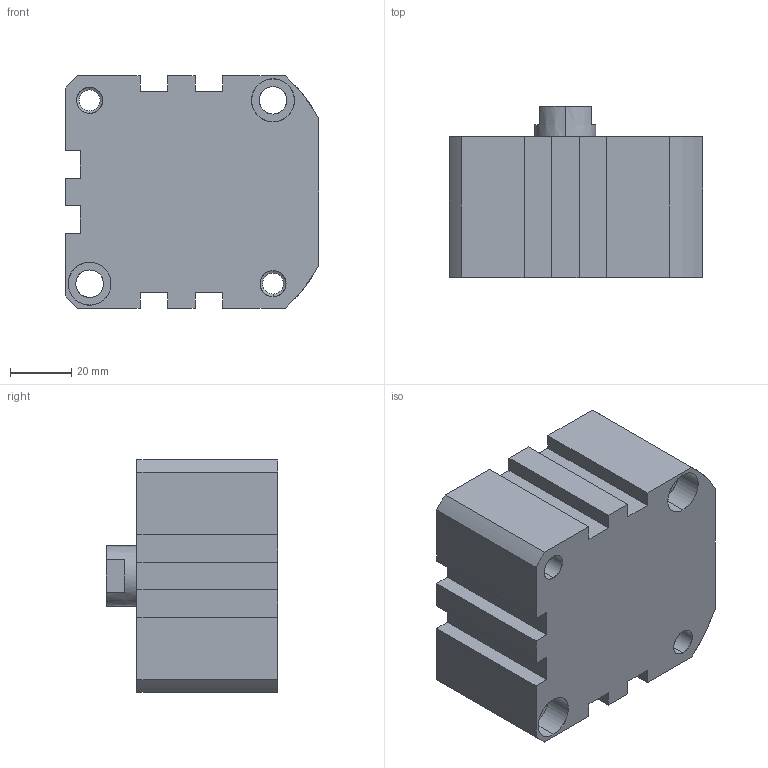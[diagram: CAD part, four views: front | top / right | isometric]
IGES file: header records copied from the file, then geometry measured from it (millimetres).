
Start section: SolidWorks IGES file using analytic representation for surfaces
Global section: file name: C:\Users\Toshiba\Desktop\XC#2-63-10.IGS; native system: SolidWorks 2014; preprocessor: SolidWorks 2014; author: Toshiba; date: 160523.161521; units: millimetre
Bounding box: 83 x 56 x 76 mm (x, y, z)
Surface area: 36755.2 mm2 (no closed solid volume)
Topology: 0 solids, 0 shells, 112 faces, 1871 edges, 1865 vertices
Faces by surface type: revolution 66, bspline 46
